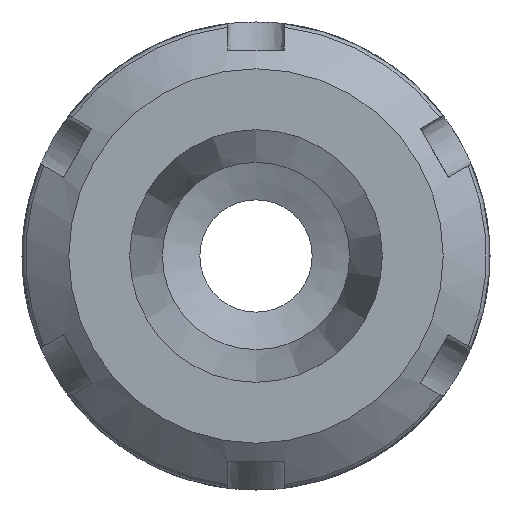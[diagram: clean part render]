
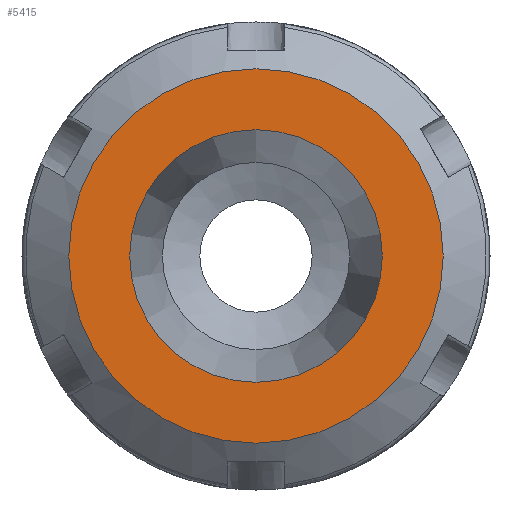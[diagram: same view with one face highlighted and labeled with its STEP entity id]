
A CAD part, front view. The second image highlights one B-rep face of the part: STEP entity #5415.
In plain terms, the highlighted planar face has unit normal (0, -1, 0).
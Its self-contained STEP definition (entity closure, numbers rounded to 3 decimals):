
#223=PLANE('',#5777);
#358=CIRCLE('',#5701,13.5);
#359=CIRCLE('',#5702,13.5);
#374=CIRCLE('',#5740,20.);
#375=CIRCLE('',#5741,20.);
#417=FACE_BOUND('',#1058,.T.);
#748=FACE_OUTER_BOUND('',#1057,.T.);
#1057=EDGE_LOOP('',(#4987,#4988));
#1058=EDGE_LOOP('',(#4989,#4990));
#2497=VERTEX_POINT('',#11934);
#2498=VERTEX_POINT('',#11935);
#2543=VERTEX_POINT('',#12471);
#2544=VERTEX_POINT('',#12472);
#3265=EDGE_CURVE('',#2497,#2498,#358,.T.);
#3266=EDGE_CURVE('',#2498,#2497,#359,.T.);
#3338=EDGE_CURVE('',#2543,#2544,#374,.T.);
#3339=EDGE_CURVE('',#2544,#2543,#375,.T.);
#4987=ORIENTED_EDGE('',*,*,#3338,.T.);
#4988=ORIENTED_EDGE('',*,*,#3339,.T.);
#4989=ORIENTED_EDGE('',*,*,#3265,.T.);
#4990=ORIENTED_EDGE('',*,*,#3266,.T.);
#5415=ADVANCED_FACE('',(#748,#417),#223,.T.);
#5701=AXIS2_PLACEMENT_3D('',#11936,#6615,#6616);
#5702=AXIS2_PLACEMENT_3D('',#11937,#6617,#6618);
#5740=AXIS2_PLACEMENT_3D('',#12473,#6720,#6721);
#5741=AXIS2_PLACEMENT_3D('',#12474,#6722,#6723);
#5777=AXIS2_PLACEMENT_3D('',#12634,#6804,#6805);
#6615=DIRECTION('center_axis',(0.,1.,0.));
#6616=DIRECTION('ref_axis',(0.,0.,1.));
#6617=DIRECTION('center_axis',(0.,1.,0.));
#6618=DIRECTION('ref_axis',(0.,0.,1.));
#6720=DIRECTION('center_axis',(0.,-1.,0.));
#6721=DIRECTION('ref_axis',(1.,0.,0.));
#6722=DIRECTION('center_axis',(0.,-1.,0.));
#6723=DIRECTION('ref_axis',(1.,0.,0.));
#6804=DIRECTION('center_axis',(0.,-1.,0.));
#6805=DIRECTION('ref_axis',(0.,0.,-1.));
#11934=CARTESIAN_POINT('',(0.,0.,13.5));
#11935=CARTESIAN_POINT('',(0.,0.,-13.5));
#11936=CARTESIAN_POINT('Origin',(0.,0.,0.));
#11937=CARTESIAN_POINT('Origin',(0.,0.,0.));
#12471=CARTESIAN_POINT('',(0.,0.,-20.));
#12472=CARTESIAN_POINT('',(0.,0.,20.));
#12473=CARTESIAN_POINT('Origin',(0.,0.,0.));
#12474=CARTESIAN_POINT('Origin',(0.,0.,0.));
#12634=CARTESIAN_POINT('Origin',(0.,0.,0.));
